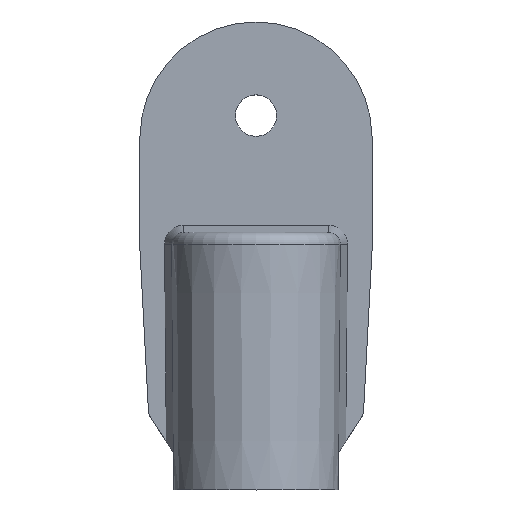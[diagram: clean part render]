
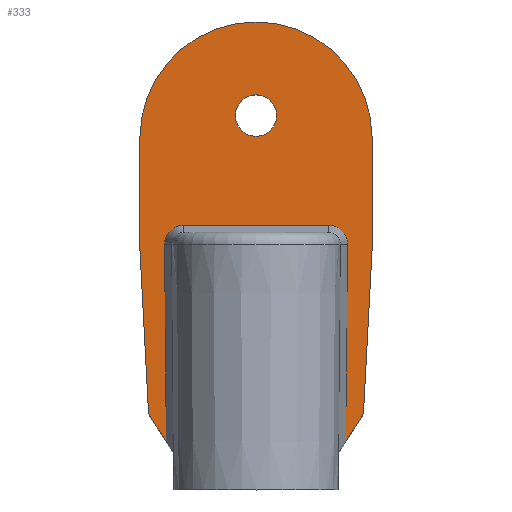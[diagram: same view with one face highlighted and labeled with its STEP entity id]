
A CAD part, top view. The second image highlights one B-rep face of the part: STEP entity #333.
In plain terms, the highlighted planar face has unit normal (0, 0, 1).
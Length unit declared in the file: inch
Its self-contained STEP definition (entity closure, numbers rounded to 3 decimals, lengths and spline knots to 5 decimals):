
#2 = ORIENTED_EDGE ( 'NONE', *, *, #834, .F. ) ;
#4 = ORIENTED_EDGE ( 'NONE', *, *, #803, .F. ) ;
#24 = ORIENTED_EDGE ( 'NONE', *, *, #866, .T. ) ;
#40 = EDGE_LOOP ( 'NONE', ( #68, #162, #179, #203, #201, #145, #200, #204, #215, #205, #126, #24, #181 ) ) ;
#43 = VECTOR ( 'NONE', #725, 39.37008 ) ;
#59 = EDGE_LOOP ( 'NONE', ( #2, #4 ) ) ;
#68 = ORIENTED_EDGE ( 'NONE', *, *, #358, .T. ) ;
#74 = FACE_BOUND ( 'NONE', #59, .T. ) ;
#77 = FACE_OUTER_BOUND ( 'NONE', #40, .T. ) ;
#100 = LINE ( 'NONE', #464, #43 ) ;
#126 = ORIENTED_EDGE ( 'NONE', *, *, #850, .T. ) ;
#145 = ORIENTED_EDGE ( 'NONE', *, *, #790, .F. ) ;
#162 = ORIENTED_EDGE ( 'NONE', *, *, #373, .T. ) ;
#179 = ORIENTED_EDGE ( 'NONE', *, *, #858, .T. ) ;
#181 = ORIENTED_EDGE ( 'NONE', *, *, #376, .T. ) ;
#200 = ORIENTED_EDGE ( 'NONE', *, *, #836, .F. ) ;
#201 = ORIENTED_EDGE ( 'NONE', *, *, #811, .F. ) ;
#203 = ORIENTED_EDGE ( 'NONE', *, *, #860, .F. ) ;
#204 = ORIENTED_EDGE ( 'NONE', *, *, #861, .F. ) ;
#205 = ORIENTED_EDGE ( 'NONE', *, *, #363, .T. ) ;
#215 = ORIENTED_EDGE ( 'NONE', *, *, #360, .F. ) ;
#240 = DIRECTION ( 'NONE',  ( 0., -1., 0. ) ) ;
#243 = CARTESIAN_POINT ( 'NONE',  ( 0., 0.6, -0.1 ) ) ;
#245 = DIRECTION ( 'NONE',  ( 0., 0., 1. ) ) ;
#246 = CARTESIAN_POINT ( 'NONE',  ( 0., 0.50354, -0.1 ) ) ;
#251 = DIRECTION ( 'NONE',  ( 0., 0., -1. ) ) ;
#252 = DIRECTION ( 'NONE',  ( 0., -1., 0. ) ) ;
#285 = CARTESIAN_POINT ( 'NONE',  ( -0.38341, -0.79234, -0.1 ) ) ;
#298 = CARTESIAN_POINT ( 'NONE',  ( -0.39147, 0.071, -0.1 ) ) ;
#299 = CARTESIAN_POINT ( 'NONE',  ( -0.31022, 0.13049, -0.1 ) ) ;
#302 = CARTESIAN_POINT ( 'NONE',  ( -0.3509, 0.12305, -0.1 ) ) ;
#304 = CARTESIAN_POINT ( 'NONE',  ( -0.3836, 0.09013, -0.1 ) ) ;
#305 = DIRECTION ( 'NONE',  ( 0.009, 1., 0. ) ) ;
#308 = CARTESIAN_POINT ( 'NONE',  ( -0.38831, -0.23125, -0.1 ) ) ;
#310 = DIRECTION ( 'NONE',  ( 0.545, 0.839, 0. ) ) ;
#312 = DIRECTION ( 'NONE',  ( -0.052, -0.999, 0. ) ) ;
#313 = CARTESIAN_POINT ( 'NONE',  ( 0.5, 0.1, -0.1 ) ) ;
#314 = CARTESIAN_POINT ( 'NONE',  ( -0.49644, 0.50787, -0.1 ) ) ;
#315 = CARTESIAN_POINT ( 'NONE',  ( -0.39075, 0.0493, -0.1 ) ) ;
#316 = CARTESIAN_POINT ( 'NONE',  ( -0.33189, 0.13102, -0.1 ) ) ;
#317 = CARTESIAN_POINT ( 'NONE',  ( 1.19109, 0.45138, -0.1 ) ) ;
#320 = CARTESIAN_POINT ( 'NONE',  ( -0.38586, -0.51179, -0.1 ) ) ;
#321 = CARTESIAN_POINT ( 'NONE',  ( -0.39075, 0.0493, -0.1 ) ) ;
#333 = ADVANCED_FACE ( 'NONE', ( #74, #77 ), #589, .T. ) ;
#358 = EDGE_CURVE ( 'NONE', #576, #521, #884, .T. ) ;
#360 = EDGE_CURVE ( 'NONE', #731, #466, #100, .T. ) ;
#363 = EDGE_CURVE ( 'NONE', #731, #732, #979, .T. ) ;
#373 = EDGE_CURVE ( 'NONE', #521, #417, #893, .T. ) ;
#376 = EDGE_CURVE ( 'NONE', #681, #576, #902, .T. ) ;
#407 = VERTEX_POINT ( 'NONE', #766 ) ;
#417 = VERTEX_POINT ( 'NONE', #765 ) ;
#419 = CARTESIAN_POINT ( 'NONE',  ( 0.33193, 0.13101, -0.1 ) ) ;
#437 = VERTEX_POINT ( 'NONE', #764 ) ;
#464 = CARTESIAN_POINT ( 'NONE',  ( -0.5, 0.1, -0.1 ) ) ;
#465 = CARTESIAN_POINT ( 'NONE',  ( 0.39075, 0.0493, -0.1 ) ) ;
#466 = VERTEX_POINT ( 'NONE', #633 ) ;
#467 = VERTEX_POINT ( 'NONE', #763 ) ;
#481 = VERTEX_POINT ( 'NONE', #708 ) ;
#482 = DIRECTION ( 'NONE',  ( 0., 0., 1. ) ) ;
#485 = DIRECTION ( 'NONE',  ( 0., -1., 0. ) ) ;
#507 = CARTESIAN_POINT ( 'NONE',  ( 0.39147, 0.07096, -0.1 ) ) ;
#516 = CARTESIAN_POINT ( 'NONE',  ( 0.31022, 0.13049, -0.1 ) ) ;
#521 = VERTEX_POINT ( 'NONE', #618 ) ;
#522 = VERTEX_POINT ( 'NONE', #619 ) ;
#529 = VERTEX_POINT ( 'NONE', #674 ) ;
#540 = VERTEX_POINT ( 'NONE', #675 ) ;
#543 = CARTESIAN_POINT ( 'NONE',  ( 0.34628, 1., -0.1 ) ) ;
#550 = VERTEX_POINT ( 'NONE', #737 ) ;
#554 = DIRECTION ( 'NONE',  ( 0.545, -0.839, 0. ) ) ;
#563 = CARTESIAN_POINT ( 'NONE',  ( 0.35099, 0.12299, -0.1 ) ) ;
#576 = VERTEX_POINT ( 'NONE', #753 ) ;
#580 = DIRECTION ( 'NONE',  ( 0., 0., 1. ) ) ;
#581 = DIRECTION ( 'NONE',  ( 0.009, -1., 0. ) ) ;
#589 = PLANE ( 'NONE',  #843 ) ;
#593 = DIRECTION ( 'NONE',  ( 0., -1., 0. ) ) ;
#594 = CARTESIAN_POINT ( 'NONE',  ( 0., 0.50354, -0.1 ) ) ;
#597 = CARTESIAN_POINT ( 'NONE',  ( -0.38341, -0.79234, -0.1 ) ) ;
#611 = CARTESIAN_POINT ( 'NONE',  ( 0.39075, 0.0493, -0.1 ) ) ;
#614 = CARTESIAN_POINT ( 'NONE',  ( 0.38831, -0.23125, -0.1 ) ) ;
#618 = CARTESIAN_POINT ( 'NONE',  ( 0.39075, 0.0493, -0.1 ) ) ;
#619 = CARTESIAN_POINT ( 'NONE',  ( 0.5, 0.1, -0.1 ) ) ;
#633 = CARTESIAN_POINT ( 'NONE',  ( -0.5, 0.1, -0.1 ) ) ;
#635 = CARTESIAN_POINT ( 'NONE',  ( 0.29389, 0.13049, -0.1 ) ) ;
#650 = DIRECTION ( 'NONE',  ( 1., 0., 0. ) ) ;
#657 = CARTESIAN_POINT ( 'NONE',  ( -0.31022, 0.13049, -0.1 ) ) ;
#660 = DIRECTION ( 'NONE',  ( 0., 0., -1. ) ) ;
#674 = CARTESIAN_POINT ( 'NONE',  ( 0., 0.6885, -0.1 ) ) ;
#675 = CARTESIAN_POINT ( 'NONE',  ( 0.49644, 0.50787, -0.1 ) ) ;
#681 = VERTEX_POINT ( 'NONE', #657 ) ;
#692 = DIRECTION ( 'NONE',  ( 0., -1., 0. ) ) ;
#693 = CARTESIAN_POINT ( 'NONE',  ( 0.49644, 0.50787, -0.1 ) ) ;
#696 = CARTESIAN_POINT ( 'NONE',  ( 0., 0.6, -0.1 ) ) ;
#708 = CARTESIAN_POINT ( 'NONE',  ( 0., 0.5115, -0.1 ) ) ;
#715 = CARTESIAN_POINT ( 'NONE',  ( -0.98565, 0.13503, -0.1 ) ) ;
#725 = DIRECTION ( 'NONE',  ( -0.052, 0.999, 0. ) ) ;
#731 = VERTEX_POINT ( 'NONE', #751 ) ;
#732 = VERTEX_POINT ( 'NONE', #597 ) ;
#735 = CARTESIAN_POINT ( 'NONE',  ( 0.38366, 0.09003, -0.1 ) ) ;
#737 = CARTESIAN_POINT ( 'NONE',  ( 0., 1., -0.1 ) ) ;
#751 = CARTESIAN_POINT ( 'NONE',  ( -0.45936, -0.67538, -0.1 ) ) ;
#753 = CARTESIAN_POINT ( 'NONE',  ( 0.31022, 0.13049, -0.1 ) ) ;
#763 = CARTESIAN_POINT ( 'NONE',  ( -0.49644, 0.50787, -0.1 ) ) ;
#764 = CARTESIAN_POINT ( 'NONE',  ( 0.45936, -0.67538, -0.1 ) ) ;
#765 = CARTESIAN_POINT ( 'NONE',  ( 0.38341, -0.79234, -0.1 ) ) ;
#766 = CARTESIAN_POINT ( 'NONE',  ( -0.39075, 0.0493, -0.1 ) ) ;
#777 = CARTESIAN_POINT ( 'NONE',  ( 0.38341, -0.79234, -0.1 ) ) ;
#778 = CARTESIAN_POINT ( 'NONE',  ( 0.38586, -0.51179, -0.1 ) ) ;
#790 = EDGE_CURVE ( 'NONE', #550, #540, #914, .T. ) ;
#795 = AXIS2_PLACEMENT_3D ( 'NONE', #243, #245, #240 ) ;
#803 = EDGE_CURVE ( 'NONE', #529, #481, #929, .T. ) ;
#811 = EDGE_CURVE ( 'NONE', #540, #522, #919, .T. ) ;
#834 = EDGE_CURVE ( 'NONE', #481, #529, #964, .T. ) ;
#836 = EDGE_CURVE ( 'NONE', #467, #550, #976, .T. ) ;
#841 = AXIS2_PLACEMENT_3D ( 'NONE', #594, #660, #593 ) ;
#843 = AXIS2_PLACEMENT_3D ( 'NONE', #543, #482, #485 ) ;
#850 = EDGE_CURVE ( 'NONE', #732, #407, #984, .T. ) ;
#858 = EDGE_CURVE ( 'NONE', #417, #437, #950, .T. ) ;
#860 = EDGE_CURVE ( 'NONE', #522, #437, #952, .T. ) ;
#861 = EDGE_CURVE ( 'NONE', #466, #467, #955, .T. ) ;
#865 = AXIS2_PLACEMENT_3D ( 'NONE', #696, #580, #692 ) ;
#866 = EDGE_CURVE ( 'NONE', #407, #681, #983, .T. ) ;
#878 = AXIS2_PLACEMENT_3D ( 'NONE', #246, #251, #252 ) ;
#884 = B_SPLINE_CURVE_WITH_KNOTS ( 'NONE', 3,
 ( #516, #419, #563, #735, #507, #465 ),
 .UNSPECIFIED., .F., .F.,
 ( 4, 2, 4 ),
 ( 0., 0.5, 1. ),
 .UNSPECIFIED. ) ;
#893 = B_SPLINE_CURVE_WITH_KNOTS ( 'NONE', 3,
 ( #611, #614, #778, #777 ),
 .UNSPECIFIED., .F., .F.,
 ( 4, 4 ),
 ( 0., 1. ),
 .UNSPECIFIED. ) ;
#900 = VECTOR ( 'NONE', #650, 39.37008 ) ;
#902 = LINE ( 'NONE', #635, #900 ) ;
#914 = CIRCLE ( 'NONE', #841, 0.49646 ) ;
#918 = VECTOR ( 'NONE', #581, 39.37008 ) ;
#919 = LINE ( 'NONE', #693, #918 ) ;
#929 = CIRCLE ( 'NONE', #865, 0.0885 ) ;
#946 = VECTOR ( 'NONE', #310, 39.37008 ) ;
#950 = LINE ( 'NONE', #317, #946 ) ;
#951 = VECTOR ( 'NONE', #305, 39.37008 ) ;
#952 = LINE ( 'NONE', #313, #954 ) ;
#954 = VECTOR ( 'NONE', #312, 39.37008 ) ;
#955 = LINE ( 'NONE', #314, #951 ) ;
#964 = CIRCLE ( 'NONE', #795, 0.0885 ) ;
#976 = CIRCLE ( 'NONE', #878, 0.49646 ) ;
#978 = VECTOR ( 'NONE', #554, 39.37008 ) ;
#979 = LINE ( 'NONE', #715, #978 ) ;
#983 = B_SPLINE_CURVE_WITH_KNOTS ( 'NONE', 3,
 ( #315, #298, #304, #302, #316, #299 ),
 .UNSPECIFIED., .F., .F.,
 ( 4, 2, 4 ),
 ( 0., 0.5, 1. ),
 .UNSPECIFIED. ) ;
#984 = B_SPLINE_CURVE_WITH_KNOTS ( 'NONE', 3,
 ( #285, #320, #308, #321 ),
 .UNSPECIFIED., .F., .F.,
 ( 4, 4 ),
 ( 0., 1. ),
 .UNSPECIFIED. ) ;
